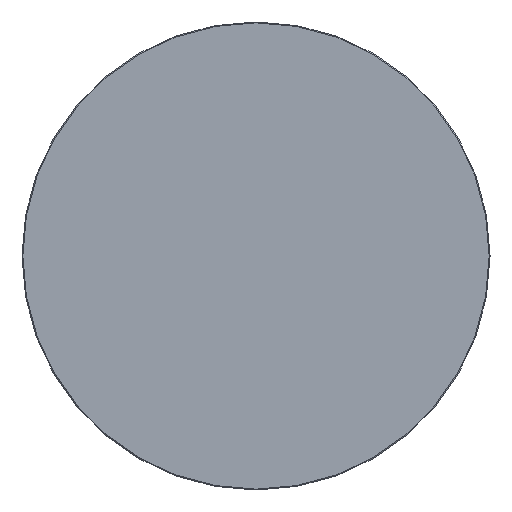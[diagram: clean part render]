
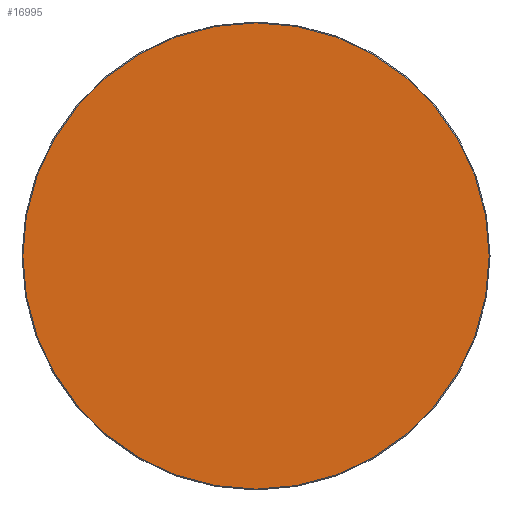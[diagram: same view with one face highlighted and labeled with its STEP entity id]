
A CAD part, top view. The second image highlights one B-rep face of the part: STEP entity #16995.
In plain terms, the highlighted planar face has unit normal (0, 0, 1).
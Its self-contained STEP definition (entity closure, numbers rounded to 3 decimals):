
#16920=CARTESIAN_POINT('',(0.,0.,20.));
#16921=DIRECTION('',(1.,0.,0.));
#16922=DIRECTION('',(0.,0.,1.));
#16923=AXIS2_PLACEMENT_3D('',#16920,#16922,#16921);
#16924=PLANE('',#16923);
#16925=CARTESIAN_POINT('',(-0.5,-398.5,20.));
#16926=VERTEX_POINT('',#16925);
#16927=CARTESIAN_POINT('',(0.5,-398.5,20.));
#16928=VERTEX_POINT('',#16927);
#16929=CARTESIAN_POINT('',(-0.5,-398.5,20.));
#16930=DIRECTION('',(1.,0.,0.));
#16931=VECTOR('',#16930,1.);
#16932=LINE('',#16929,#16931);
#16933=EDGE_CURVE('',#16926,#16928,#16932,.T.);
#16934=ORIENTED_EDGE('E105',*,*,#16933,.T.);
#16935=CARTESIAN_POINT('',(398.5,-0.5,20.));
#16936=VERTEX_POINT('',#16935);
#16937=CARTESIAN_POINT('',(0.5,-0.5,20.));
#16938=DIRECTION('',(0.,-1.,0.));
#16939=DIRECTION('',(0.,0.,1.));
#16940=AXIS2_PLACEMENT_3D('',#16937,#16939,#16938);
#16941=CIRCLE('',#16940,398.);
#16942=EDGE_CURVE('',#16928,#16936,#16941,.T.);
#16943=ORIENTED_EDGE('E107',*,*,#16942,.T.);
#16944=CARTESIAN_POINT('',(398.5,0.5,20.));
#16945=VERTEX_POINT('',#16944);
#16946=CARTESIAN_POINT('',(398.5,-0.5,20.));
#16947=DIRECTION('',(0.,1.,0.));
#16948=VECTOR('',#16947,1.);
#16949=LINE('',#16946,#16948);
#16950=EDGE_CURVE('',#16936,#16945,#16949,.T.);
#16951=ORIENTED_EDGE('E109',*,*,#16950,.T.);
#16952=CARTESIAN_POINT('',(0.5,398.5,20.));
#16953=VERTEX_POINT('',#16952);
#16954=CARTESIAN_POINT('',(0.5,0.5,20.));
#16955=DIRECTION('',(1.,0.,0.));
#16956=DIRECTION('',(0.,0.,1.));
#16957=AXIS2_PLACEMENT_3D('',#16954,#16956,#16955);
#16958=CIRCLE('',#16957,398.);
#16959=EDGE_CURVE('',#16945,#16953,#16958,.T.);
#16960=ORIENTED_EDGE('E111',*,*,#16959,.T.);
#16961=CARTESIAN_POINT('',(-0.5,398.5,20.));
#16962=VERTEX_POINT('',#16961);
#16963=CARTESIAN_POINT('',(0.5,398.5,20.));
#16964=DIRECTION('',(-1.,0.,0.));
#16965=VECTOR('',#16964,1.);
#16966=LINE('',#16963,#16965);
#16967=EDGE_CURVE('',#16953,#16962,#16966,.T.);
#16968=ORIENTED_EDGE('E113',*,*,#16967,.T.);
#16969=CARTESIAN_POINT('',(-398.5,0.5,20.));
#16970=VERTEX_POINT('',#16969);
#16971=CARTESIAN_POINT('',(-0.5,0.5,20.));
#16972=DIRECTION('',(0.,1.,0.));
#16973=DIRECTION('',(0.,0.,1.));
#16974=AXIS2_PLACEMENT_3D('',#16971,#16973,#16972);
#16975=CIRCLE('',#16974,398.);
#16976=EDGE_CURVE('',#16962,#16970,#16975,.T.);
#16977=ORIENTED_EDGE('E115',*,*,#16976,.T.);
#16978=CARTESIAN_POINT('',(-398.5,-0.5,20.));
#16979=VERTEX_POINT('',#16978);
#16980=CARTESIAN_POINT('',(-398.5,0.5,20.));
#16981=DIRECTION('',(0.,-1.,0.));
#16982=VECTOR('',#16981,1.);
#16983=LINE('',#16980,#16982);
#16984=EDGE_CURVE('',#16970,#16979,#16983,.T.);
#16985=ORIENTED_EDGE('E117',*,*,#16984,.T.);
#16986=CARTESIAN_POINT('',(-0.5,-0.5,20.));
#16987=DIRECTION('',(-1.,0.,0.));
#16988=DIRECTION('',(-0.,0.,1.));
#16989=AXIS2_PLACEMENT_3D('',#16986,#16988,#16987);
#16990=CIRCLE('',#16989,398.);
#16991=EDGE_CURVE('',#16979,#16926,#16990,.T.);
#16992=ORIENTED_EDGE('E119',*,*,#16991,.T.);
#16993=EDGE_LOOP('',(#16934,#16943,#16951,#16960,#16968,#16977,#16985,#16992));
#16994=FACE_OUTER_BOUND('',#16993,.T.);
#16995=ADVANCED_FACE('F2',(#16994),#16924,.T.);
